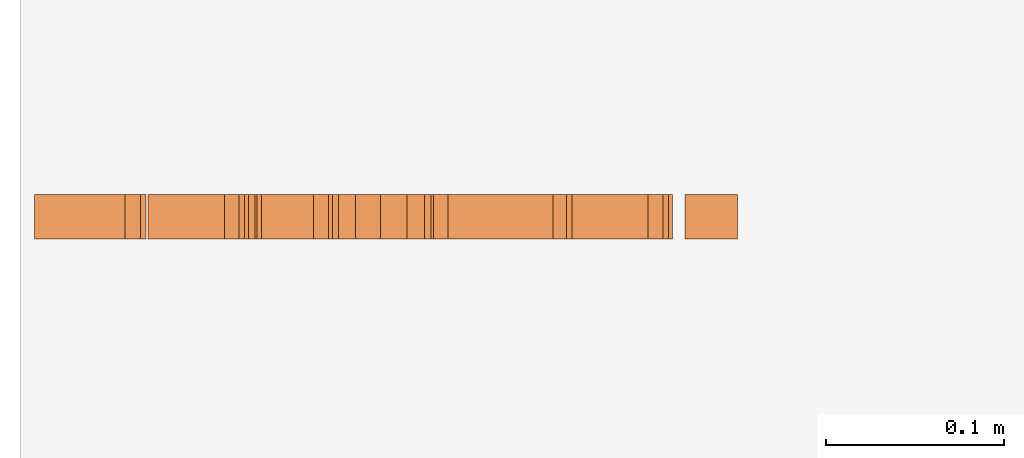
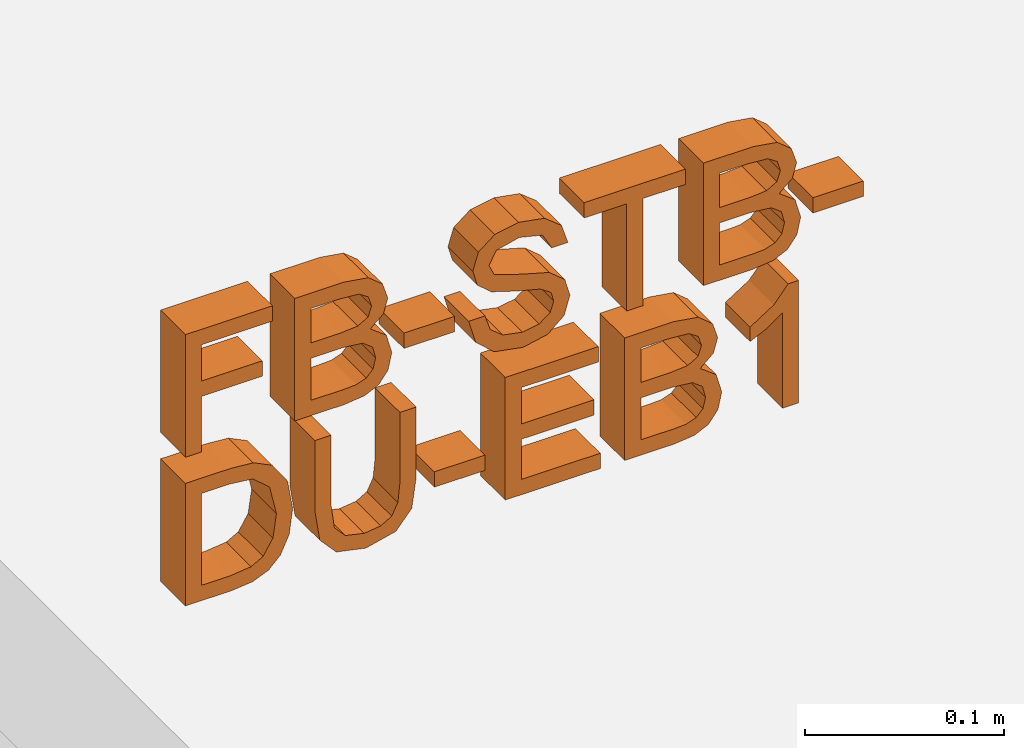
# Not in any storey, part 2 of 2: 1 proxy.
"""IFC4 model written with IfcOpenShell, lengths in metres."""

from ifc_helpers import new_model, entity, si_unit, converted_unit, derived_unit, direction, frame, origin, place, context, subcontext, project, spatial, indexed_curve, outline, extrude, type_object, element, save


model = new_model("IFC4")

# Units and contexts
model_context = context("Model", 3, precision=1e-05, world=origin(), true_north=direction((6.123031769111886e-17, 1.0)))
body_context = subcontext(model_context, "Body", "Model", "MODEL_VIEW")
ifc_project = project(units=[si_unit("LENGTHUNIT", "METRE"), si_unit("AREAUNIT", "SQUARE_METRE"), si_unit("VOLUMEUNIT", "CUBIC_METRE"), converted_unit("PLANEANGLEUNIT", "DEGREE", entity("IfcRatioMeasure", 0.017453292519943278), si_unit("PLANEANGLEUNIT", "RADIAN"), dimensions=[0, 0, 0, 0, 0, 0, 0]), si_unit("MASSUNIT", "GRAM", prefix="KILO"), derived_unit("MASSDENSITYUNIT", [(si_unit("MASSUNIT", "GRAM", prefix="KILO"), 1), (si_unit("LENGTHUNIT", "METRE"), -3)]), derived_unit("IONCONCENTRATIONUNIT", [(si_unit("MASSUNIT", "GRAM", prefix="KILO"), 1), (si_unit("LENGTHUNIT", "METRE"), -3)]), derived_unit("MOMENTOFINERTIAUNIT", [(si_unit("LENGTHUNIT", "METRE"), 4)]), si_unit("TIMEUNIT", "SECOND"), si_unit("FREQUENCYUNIT", "HERTZ"), si_unit("THERMODYNAMICTEMPERATUREUNIT", "DEGREE_CELSIUS"), derived_unit("THERMALTRANSMITTANCEUNIT", [(si_unit("MASSUNIT", "GRAM", prefix="KILO"), 1), (si_unit("THERMODYNAMICTEMPERATUREUNIT", "KELVIN"), -1), (si_unit("TIMEUNIT", "SECOND"), -3)]), derived_unit("THERMALCONDUCTANCEUNIT", [(si_unit("MASSUNIT", "GRAM", prefix="KILO"), 1), (si_unit("THERMODYNAMICTEMPERATUREUNIT", "KELVIN"), -1), (si_unit("TIMEUNIT", "SECOND"), -3), (si_unit("LENGTHUNIT", "METRE"), 1)]), derived_unit("VOLUMETRICFLOWRATEUNIT", [(si_unit("LENGTHUNIT", "METRE"), 3), (si_unit("TIMEUNIT", "SECOND"), -1)]), derived_unit("MASSFLOWRATEUNIT", [(si_unit("MASSUNIT", "GRAM", prefix="KILO"), 1), (si_unit("TIMEUNIT", "SECOND"), -1)]), derived_unit("ROTATIONALFREQUENCYUNIT", [(si_unit("TIMEUNIT", "SECOND"), -1)]), si_unit("ELECTRICCURRENTUNIT", "AMPERE"), si_unit("ELECTRICVOLTAGEUNIT", "VOLT"), si_unit("POWERUNIT", "WATT"), si_unit("FORCEUNIT", "NEWTON", prefix="KILO"), si_unit("ILLUMINANCEUNIT", "LUX"), si_unit("LUMINOUSFLUXUNIT", "LUMEN"), si_unit("LUMINOUSINTENSITYUNIT", "CANDELA"), derived_unit("USERDEFINED", [(si_unit("MASSUNIT", "GRAM", prefix="KILO"), -1), (si_unit("LENGTHUNIT", "METRE"), -2), (si_unit("TIMEUNIT", "SECOND"), 3), (si_unit("LUMINOUSFLUXUNIT", "LUMEN"), 1)]), derived_unit("USERDEFINED", [(si_unit("MASSUNIT", "GRAM", prefix="KILO"), 1), (si_unit("TIMEUNIT", "SECOND"), -3), (si_unit("LENGTHUNIT", "METRE"), 3), (si_unit("ELECTRICCURRENTUNIT", "AMPERE"), -2)]), derived_unit("SOUNDPOWERUNIT", [(si_unit("MASSUNIT", "GRAM", prefix="KILO"), 1), (si_unit("TIMEUNIT", "SECOND"), -3), (si_unit("LENGTHUNIT", "METRE"), 2)]), derived_unit("SOUNDPRESSUREUNIT", [(si_unit("MASSUNIT", "GRAM", prefix="KILO"), 1), (si_unit("LENGTHUNIT", "METRE"), -1), (si_unit("TIMEUNIT", "SECOND"), -2)]), derived_unit("LINEARVELOCITYUNIT", [(si_unit("LENGTHUNIT", "METRE"), 1), (si_unit("TIMEUNIT", "SECOND"), -1)]), si_unit("PRESSUREUNIT", "PASCAL"), derived_unit("USERDEFINED", [(si_unit("MASSUNIT", "GRAM", prefix="KILO"), 1), (si_unit("LENGTHUNIT", "METRE"), -2), (si_unit("TIMEUNIT", "SECOND"), -2)]), derived_unit("LINEARFORCEUNIT", [(si_unit("MASSUNIT", "GRAM", prefix="KILO"), 1), (si_unit("TIMEUNIT", "SECOND"), -2)]), derived_unit("PLANARFORCEUNIT", [(si_unit("MASSUNIT", "GRAM", prefix="KILO"), 1), (si_unit("LENGTHUNIT", "METRE"), -1), (si_unit("TIMEUNIT", "SECOND"), -2)]), derived_unit("SPECIFICHEATCAPACITYUNIT", [(si_unit("THERMODYNAMICTEMPERATUREUNIT", "KELVIN"), -1), (si_unit("LENGTHUNIT", "METRE"), 2), (si_unit("TIMEUNIT", "SECOND"), -2)]), derived_unit("HEATINGVALUEUNIT", [(si_unit("LENGTHUNIT", "METRE"), 2), (si_unit("TIMEUNIT", "SECOND"), -2)]), derived_unit("VAPORPERMEABILITYUNIT", [(si_unit("LENGTHUNIT", "METRE"), -1), (si_unit("TIMEUNIT", "SECOND"), 1)]), derived_unit("DYNAMICVISCOSITYUNIT", [(si_unit("MASSUNIT", "GRAM", prefix="KILO"), 1), (si_unit("TIMEUNIT", "SECOND"), -1), (si_unit("LENGTHUNIT", "METRE"), -1)]), derived_unit("THERMALEXPANSIONCOEFFICIENTUNIT", [(si_unit("THERMODYNAMICTEMPERATUREUNIT", "KELVIN"), -1)]), derived_unit("MODULUSOFELASTICITYUNIT", [(si_unit("MASSUNIT", "GRAM", prefix="KILO"), 1), (si_unit("LENGTHUNIT", "METRE"), -1), (si_unit("TIMEUNIT", "SECOND"), -2)]), derived_unit("ISOTHERMALMOISTURECAPACITYUNIT", [(si_unit("LENGTHUNIT", "METRE"), 3), (si_unit("MASSUNIT", "GRAM", prefix="KILO"), -1)]), derived_unit("MOISTUREDIFFUSIVITYUNIT", [(si_unit("TIMEUNIT", "SECOND"), -1), (si_unit("LENGTHUNIT", "METRE"), 2)])], contexts=[model_context])

# Site
site_placement = place(None, origin())
site = spatial("IfcSite", under=ifc_project, at=site_placement, Name="Default", CompositionType="ELEMENT")

# Proxy
building_element_proxy_type = type_object("IfcBuildingElementProxyType", Name="Modelltext:075mm Arial", PredefinedType="NOTDEFINED")
proxy_placement = place(site_placement, origin())
element("IfcBuildingElementProxy", 1, at=proxy_placement, inside=site, type_object=building_element_proxy_type, Name="Modelltext:075mm Arial", ObjectType="Modelltext:075mm Arial", PredefinedType="NOTDEFINED", context=body_context, shape_type="SweptSolid", body=[
    extrude(outline(indexed_curve([(-0.04379267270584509, -0.022838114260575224), (0.03154955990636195, -0.022838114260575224), (0.03154955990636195, 0.027782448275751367), (0.022131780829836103, 0.027782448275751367), (0.022131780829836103, -0.013420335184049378), (-0.00023544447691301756, -0.013420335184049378), (-0.00023544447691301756, 0.02189633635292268), (-0.009653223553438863, 0.02189633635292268), (-0.009653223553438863, -0.013420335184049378), (-0.04379267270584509, -0.013420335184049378), (-0.04379267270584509, -0.022838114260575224)], self_intersect=False)), frame((-0.5554440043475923, 42.834392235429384, 2.131461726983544), z_axis=(0.0, 1.0, 0.0), x_axis=(0.0, 0.0, 1.0)), (0.0, 0.0, 1.0), 0.025000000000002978),
    extrude(outline(indexed_curve([(-0.036518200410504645, -0.03960512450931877), (0.03882403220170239, -0.03960512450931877), (0.03882403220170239, -0.010855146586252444), (0.03660754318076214, 0.003225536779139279), (0.029792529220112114, 0.011539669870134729), (0.02015402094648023, 0.014547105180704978), (0.011352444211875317, 0.012017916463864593), (0.004684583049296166, 0.004375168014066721), (-0.0023419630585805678, 0.013654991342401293), (-0.014059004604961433, 0.016901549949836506), (-0.024184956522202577, 0.01468506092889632), (-0.03139544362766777, 0.009194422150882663), (-0.0352214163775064, 0.000999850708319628), (-0.036518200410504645, -0.01107587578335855), (-0.036518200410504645, -0.03960512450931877)], self_intersect=False), holes=[indexed_curve([(-0.027100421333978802, -0.030187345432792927), (-0.027100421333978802, -0.010873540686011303), (-0.02673253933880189, -0.0038837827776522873), (-0.024681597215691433, 0.002029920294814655), (-0.02049693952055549, 0.005947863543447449), (-0.014150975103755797, 0.007483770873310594), (-0.006830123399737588, 0.005681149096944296), (-0.002461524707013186, -0.00015897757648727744), (-0.0012015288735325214, -0.01179324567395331), (-0.0012015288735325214, -0.030187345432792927), (-0.027100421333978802, -0.030187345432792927)], self_intersect=False), indexed_curve([(0.008216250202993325, -0.030187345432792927), (0.008216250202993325, -0.012988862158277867), (0.009025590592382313, -0.0029456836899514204), (0.01251127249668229, 0.003096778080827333), (0.01864570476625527, 0.005129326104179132), (0.02478933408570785, 0.0032347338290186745), (0.02842216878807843, -0.0021915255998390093), (0.029406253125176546, -0.01429484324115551), (0.029406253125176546, -0.030187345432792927), (0.008216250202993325, -0.030187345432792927)], self_intersect=False)]), frame((-0.4751069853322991, 42.834392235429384, 2.124187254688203), z_axis=(0.0, 1.0, 0.0), x_axis=(0.0, 0.0, 1.0)), (0.0, 0.0, 1.0), 0.025000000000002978),
    extrude(outline(indexed_curve([(-0.01250000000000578, -0.014715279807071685), (0.012499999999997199, -0.014715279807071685), (0.012499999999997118, 0.014715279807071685), (-0.012500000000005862, 0.014715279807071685), (-0.01250000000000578, -0.014715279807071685)], self_intersect=False)), frame((-0.43642682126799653, 42.84689223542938, 2.1100362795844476), z_axis=(0.0, 0.0, 1.0), x_axis=(0.0, 1.0, 0.0)), (0.0, 0.0, 1.0), 0.009417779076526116),
    extrude(outline(indexed_curve([(-0.0302929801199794, 0.01105485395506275), (-0.020875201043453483, 0.01105485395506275), (-0.01784017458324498, 0.020481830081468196), (-0.010427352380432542, 0.02644151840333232), (0.0008666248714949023, 0.028713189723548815), (0.010707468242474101, 0.026993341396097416), (0.01706262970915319, 0.0222660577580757), (0.0191503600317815, 0.015947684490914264), (0.017586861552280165, 0.010070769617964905), (0.011185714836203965, 0.005794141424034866), (-0.002527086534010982, 0.002198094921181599), (-0.01728835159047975, -0.002446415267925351), (-0.025298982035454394, -0.009454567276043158), (-0.02793853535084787, -0.018817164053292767), (-0.024673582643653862, -0.02947654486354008), (-0.015136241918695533, -0.03699973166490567), (-0.0011751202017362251, -0.03956570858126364), (0.013724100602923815, -0.03688017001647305), (0.023656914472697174, -0.02898910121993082), (0.027390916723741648, -0.01719848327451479), (0.017973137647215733, -0.01719848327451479), (0.012638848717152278, -0.026873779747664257), (-0.0008072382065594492, -0.030147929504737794), (-0.014290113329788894, -0.02691056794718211), (-0.018520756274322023, -0.019093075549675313), (-0.015522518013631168, -0.012563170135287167), (-0.00014505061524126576, -0.007302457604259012), (0.01652000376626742, -0.0025751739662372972), (0.025634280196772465, 0.0050583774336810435), (0.028568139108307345, 0.0157085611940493), (0.025192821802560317, 0.026974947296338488), (0.015480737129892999, 0.03519710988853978), (0.001234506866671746, 0.03813096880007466), (-0.015586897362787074, 0.03496718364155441), (-0.0262278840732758, 0.025439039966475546), (-0.0302929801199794, 0.01105485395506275)], self_intersect=False)), frame((-0.3831780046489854, 42.834392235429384, 2.1246228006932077), z_axis=(0.0, 1.0, 0.0), x_axis=(1.0, 0.0, 0.0)), (0.0, 0.0, 1.0), 0.025000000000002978),
    extrude(outline(indexed_curve([(-0.05179778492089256, 0.0047088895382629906), (-0.05179778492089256, -0.004708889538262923), (0.014126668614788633, -0.004708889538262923), (0.014126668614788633, -0.029430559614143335), (0.02354444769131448, -0.029430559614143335), (0.02354444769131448, 0.02943055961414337), (0.014126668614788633, 0.02943055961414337), (0.014126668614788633, 0.0047088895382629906), (-0.05179778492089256, 0.0047088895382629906)], self_intersect=False)), frame((-0.3169387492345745, 42.834392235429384, 2.139466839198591), z_axis=(0.0, -1.0, 0.0), x_axis=(0.0, 0.0, 1.0)), (0.0, 0.0, -1.0), 0.025000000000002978),
    extrude(outline(indexed_curve([(-0.036518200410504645, -0.039605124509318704), (0.03882403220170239, -0.039605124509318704), (0.03882403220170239, -0.010855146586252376), (0.03660754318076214, 0.0032255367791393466), (0.029792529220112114, 0.011539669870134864), (0.02015402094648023, 0.014547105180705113), (0.011352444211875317, 0.01201791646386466), (0.004684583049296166, 0.004375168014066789), (-0.0023419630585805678, 0.013654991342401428), (-0.014059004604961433, 0.016901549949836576), (-0.024184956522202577, 0.014685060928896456), (-0.03139544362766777, 0.009194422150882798), (-0.0352214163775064, 0.0009998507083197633), (-0.036518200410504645, -0.011075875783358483), (-0.036518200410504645, -0.039605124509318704)], self_intersect=False), holes=[indexed_curve([(0.008216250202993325, -0.030187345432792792), (0.008216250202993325, -0.0129888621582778), (0.009025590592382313, -0.0029456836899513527), (0.01251127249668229, 0.0030967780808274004), (0.01864570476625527, 0.0051293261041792), (0.02478933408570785, 0.003234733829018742), (0.02842216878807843, -0.002191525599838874), (0.029406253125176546, -0.014294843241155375), (0.029406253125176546, -0.030187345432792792), (0.008216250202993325, -0.030187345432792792)], self_intersect=False), indexed_curve([(-0.027100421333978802, -0.030187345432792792), (-0.027100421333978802, -0.010873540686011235), (-0.02673253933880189, -0.003883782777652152), (-0.024681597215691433, 0.0020299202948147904), (-0.02049693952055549, 0.005947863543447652), (-0.014150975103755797, 0.007483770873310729), (-0.006830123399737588, 0.005681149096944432), (-0.002461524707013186, -0.0001589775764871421), (-0.0012015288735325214, -0.011793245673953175), (-0.0012015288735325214, -0.030187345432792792), (-0.027100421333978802, -0.030187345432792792)], self_intersect=False)]), frame((-0.23730806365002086, 42.834392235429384, 2.124187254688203), z_axis=(0.0, 1.0, 0.0), x_axis=(0.0, 0.0, 1.0)), (0.0, 0.0, 1.0), 0.025000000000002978),
    extrude(outline(indexed_curve([(-0.01250000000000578, -0.014715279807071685), (0.012499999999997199, -0.014715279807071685), (0.012499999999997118, 0.014715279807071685), (-0.012500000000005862, 0.014715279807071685), (-0.01250000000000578, -0.014715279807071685)], self_intersect=False)), frame((-0.19862789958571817, 42.84689223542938, 2.1100362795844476), z_axis=(0.0, 0.0, 1.0), x_axis=(0.0, 1.0, 0.0)), (0.0, 0.0, 1.0), 0.009417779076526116),
    extrude(outline(indexed_curve([(-0.03575046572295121, -0.039028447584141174), (0.039591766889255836, -0.039028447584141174), (0.039591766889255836, -0.013037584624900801), (0.0385065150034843, 0.0004085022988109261), (0.0331170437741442, 0.0114817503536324), (0.02024117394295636, 0.02040288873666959), (0.0023253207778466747, 0.023364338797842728), (-0.012877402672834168, 0.02135938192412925), (-0.023849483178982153, 0.016209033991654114), (-0.030682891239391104, 0.009329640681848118), (-0.03446287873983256, 0.0003257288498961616), (-0.03575046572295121, -0.011786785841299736), (-0.03575046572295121, -0.039028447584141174)], self_intersect=False), holes=[indexed_curve([(-0.02633268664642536, -0.029610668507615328), (-0.02633268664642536, -0.01294561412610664), (-0.024971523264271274, -0.0008239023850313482), (-0.021127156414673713, 0.006165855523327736), (-0.011773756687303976, 0.01189561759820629), (0.0024724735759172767, 0.01394655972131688), (0.020314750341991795, 0.009927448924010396), (0.02866567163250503, 0.0001509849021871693), (0.03017398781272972, -0.013203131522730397), (0.03017398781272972, -0.029610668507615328), (-0.02633268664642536, -0.029610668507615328)], self_intersect=False)]), frame((-0.5392536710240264, 42.834392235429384, 2.0319384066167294), z_axis=(0.0, 1.0, 0.0), x_axis=(0.0, 0.0, 1.0)), (0.0, 0.0, 1.0), 0.025000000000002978),
    extrude(outline(indexed_curve([(0.01930509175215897, -0.04688825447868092), (0.028722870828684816, -0.04688825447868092), (0.028722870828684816, -0.0034229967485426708), (0.026166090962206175, 0.014594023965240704), (0.01695064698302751, 0.025446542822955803), (-0.0005237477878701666, 0.02963120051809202), (-0.017731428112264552, 0.02598916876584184), (-0.027277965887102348, 0.015440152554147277), (-0.030138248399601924, -0.0034229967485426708), (-0.030138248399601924, -0.04688825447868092), (-0.020720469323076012, -0.04688825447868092), (-0.020720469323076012, -0.0037540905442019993), (-0.018862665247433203, 0.010602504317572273), (-0.012479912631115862, 0.01771182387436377), (-0.0014066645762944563, 0.02021342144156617), (0.008172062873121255, 0.018976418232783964), (0.014541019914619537, 0.015265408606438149), (0.018114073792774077, 0.008036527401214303), (0.01930509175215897, -0.0037540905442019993), (0.01930509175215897, -0.04688825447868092)], self_intersect=False)), frame((-0.4728016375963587, 42.834392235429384, 2.0246419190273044), z_axis=(0.0, 1.0, 0.0), x_axis=(1.0, 0.0, 0.0)), (0.0, 0.0, 1.0), 0.025000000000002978),
    extrude(outline(indexed_curve([(-0.01250000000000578, -0.014715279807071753), (0.012499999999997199, -0.014715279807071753), (0.012499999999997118, 0.014715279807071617), (-0.012500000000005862, 0.014715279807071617), (-0.01250000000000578, -0.014715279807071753)], self_intersect=False)), frame((-0.4187684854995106, 42.84689223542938, 2.018555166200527), z_axis=(0.0, 0.0, 1.0), x_axis=(0.0, 1.0, 0.0)), (0.0, 0.0, 1.0), 0.009417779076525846),
    extrude(outline(indexed_curve([(-0.038063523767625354, -0.030019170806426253), (0.03727870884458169, -0.030019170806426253), (0.03727870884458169, 0.024133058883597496), (0.027860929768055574, 0.024133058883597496), (0.027860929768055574, -0.020601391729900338), (0.005493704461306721, -0.020601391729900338), (0.005493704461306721, 0.021778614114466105), (-0.003924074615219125, 0.021778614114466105), (-0.003924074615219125, -0.020601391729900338), (-0.028645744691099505, -0.020601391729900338), (-0.028645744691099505, 0.025310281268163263), (-0.038063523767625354, 0.025310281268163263), (-0.038063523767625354, -0.030019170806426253)], self_intersect=False)), frame((-0.36226181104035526, 42.834392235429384, 2.034251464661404), z_axis=(0.0, 1.0, 0.0), x_axis=(0.0, 0.0, 1.0)), (0.0, 0.0, 1.0), 0.025000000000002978),
    extrude(outline(indexed_curve([(-0.036518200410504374, -0.039605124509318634), (0.03882403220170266, -0.039605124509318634), (0.03882403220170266, -0.010855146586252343), (0.03660754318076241, 0.003225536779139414), (0.029792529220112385, 0.011539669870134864), (0.02015402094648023, 0.014547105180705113), (0.011352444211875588, 0.012017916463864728), (0.004684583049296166, 0.004375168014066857), (-0.0023419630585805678, 0.013654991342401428), (-0.014059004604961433, 0.01690154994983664), (-0.024184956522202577, 0.014685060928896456), (-0.03139544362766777, 0.009194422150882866), (-0.0352214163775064, 0.0009998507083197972), (-0.036518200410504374, -0.011075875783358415), (-0.036518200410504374, -0.039605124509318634)], self_intersect=False), holes=[indexed_curve([(0.008216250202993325, -0.030187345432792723), (0.008216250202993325, -0.012988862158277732), (0.009025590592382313, -0.002945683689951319), (0.012511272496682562, 0.003096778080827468), (0.01864570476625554, 0.005129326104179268), (0.02478933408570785, 0.00323473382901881), (0.0284221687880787, -0.002191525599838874), (0.029406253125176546, -0.01429484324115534), (0.029406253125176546, -0.030187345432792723), (0.008216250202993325, -0.030187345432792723)], self_intersect=False), indexed_curve([(-0.027100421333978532, -0.030187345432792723), (-0.027100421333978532, -0.010873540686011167), (-0.02673253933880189, -0.003883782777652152), (-0.024681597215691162, 0.0020299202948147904), (-0.02049693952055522, 0.005947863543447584), (-0.014150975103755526, 0.007483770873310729), (-0.0068301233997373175, 0.005681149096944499), (-0.0024615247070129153, -0.00015897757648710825), (-0.0012015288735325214, -0.011793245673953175), (-0.0012015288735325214, -0.030187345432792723), (-0.027100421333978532, -0.030187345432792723)], self_intersect=False)]), frame((-0.28321973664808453, 42.834392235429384, 2.0327061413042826), z_axis=(0.0, 1.0, 0.0), x_axis=(0.0, 0.0, 1.0)), (0.0, 0.0, 1.0), 0.025000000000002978),
    extrude(outline(indexed_curve([(-0.012688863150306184, -0.04790947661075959), (-0.0032710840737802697, -0.04790947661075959), (-0.0032710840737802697, 0.010804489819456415), (0.005650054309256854, 0.004449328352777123), (0.015564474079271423, -0.00030554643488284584), (0.015564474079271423, 0.008597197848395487), (0.0017597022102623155, 0.017407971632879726), (-0.006618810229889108, 0.02743275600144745), (-0.012688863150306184, 0.02743275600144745), (-0.012688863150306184, -0.04790947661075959)], self_intersect=False)), frame((-0.23427259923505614, 42.834392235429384, 2.044097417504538), z_axis=(0.0, 1.0, 0.0), x_axis=(-1.0, 0.0, 0.0)), (0.0, 0.0, 1.0), 0.025000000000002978),
])

save(model, "model.ifc")
